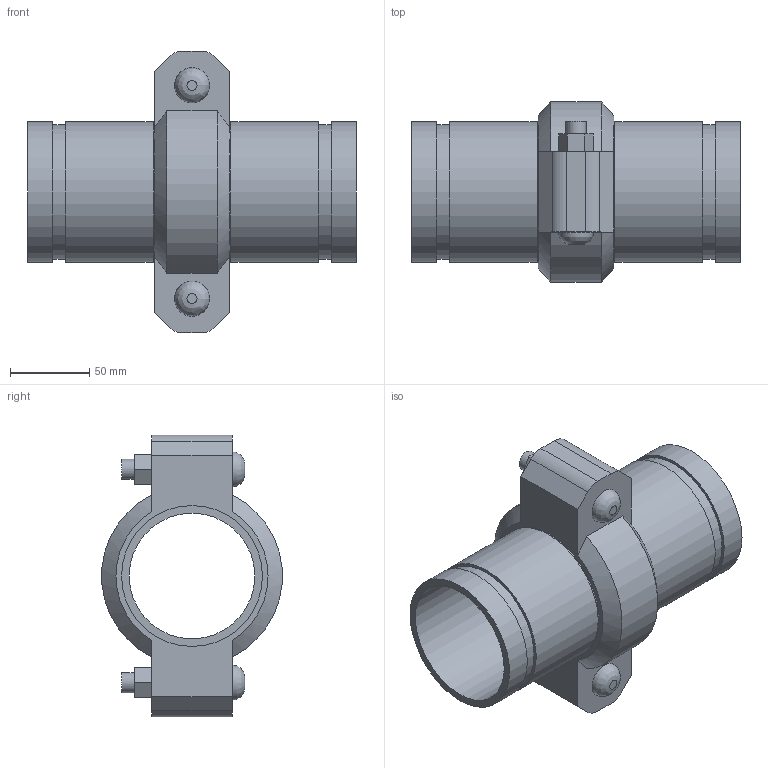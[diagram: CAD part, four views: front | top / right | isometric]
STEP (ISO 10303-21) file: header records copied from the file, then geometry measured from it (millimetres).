
FILE_DESCRIPTION(/* description */ ('VIC SS EXPANSION JOINT 1 COUPLING EXPANDED STYLE 155P (OGS) (POTABLE WATER) ','CAx-IF Rec.Pracs.---Representation and Presentation of Product Manufacturing Information (PMI)---4.0---2014-10-13'),/* implementation_level */ '2;1');
FILE_NAME(/* name */ 'C:\Users\kkamble\AppData\Roaming\Autodesk\ApplicationPlugins\Victaulic.Temp\A607\Victaulic_SS_Expansion Joint_Expanded_1 Coupling_Style 155P (OGS)-Potable Water_1 Coup_Expd_3 (80).stp',/* time_stamp */ '2021-07-16T16:43:33+05:00',/* author */ ('kkamble'),/* organization */ ('Victaulic'),/* preprocessor_version */ 'ST-DEVELOPER v17.2',/* originating_system */ 'Autodesk Inventor 2019',/* authorisation */ '');
FILE_SCHEMA (('AP242_MANAGED_MODEL_BASED_3D_ENGINEERING_MIM_LF { 1 0 10303 442 1 1 4 }'));
Length unit declared in the file: inch
Products named in the file (3): 155P-03.0; Nipple-03.0; 075-03.0
Assembly tree (3 placements, depth 2):
  155P-03.0
    Nipple-03.0  x2
    075-03.0
Bounding box: 207.52 x 113.88 x 177.8 mm (x, y, z)
Volume: 576291.1 mm3; surface area: 178884.1 mm2
Topology: 3 solids, 5 shells, 81 faces, 193 edges, 138 vertices
Faces by surface type: plane 48, cylinder 27, cone 4, bspline 2
Full cylindrical faces by diameter (mm): 12.7 x4, 14.605 x2, 79.35 x2, 82.55 x1, 84.938 x4, 88.9 x8
Entity records: 2292 total; most frequent: CARTESIAN_POINT 420, DIRECTION 369, ORIENTED_EDGE 326, EDGE_CURVE 163, AXIS2_PLACEMENT_3D 141, VERTEX_POINT 114, EDGE_LOOP 89, LINE 87
